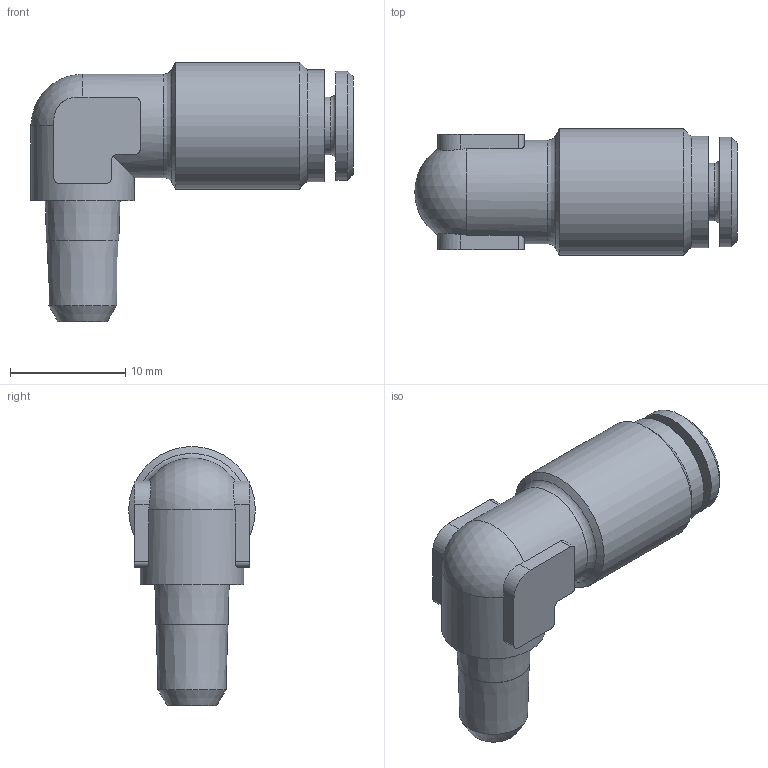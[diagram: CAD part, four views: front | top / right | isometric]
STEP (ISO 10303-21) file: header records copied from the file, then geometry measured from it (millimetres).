
FILE_DESCRIPTION(/* description */ (''),/* implementation_level */ '2;1');
FILE_NAME(/* name */ 'H190406_HDS19_4_M6X1K_04.05.17',/* time_stamp */ '2017-05-04T11:19:22+02:00',/* author */ (''),/* organization */ (''),/* preprocessor_version */ 'ST-DEVELOPER v16.5',/* originating_system */ 'HiCAD 2016 2102.1 Build 498',/* authorisation */ '');
FILE_SCHEMA (('AUTOMOTIVE_DESIGN { 1 0 10303 214 1 1 1 1 }'));
Length unit declared in the file: millimetre
Products named in the file (3): Root; RH140406; ONLINE_DR4_HDS_26.11.15
Assembly tree (2 placements, depth 2):
  Root
    RH140406
    ONLINE_DR4_HDS_26.11.15
Bounding box: 28 x 11 x 22.5 mm (x, y, z)
Volume: 2024.1 mm3; surface area: 2309.4 mm2
Topology: 2 solids, 2 shells, 69 faces, 166 edges, 106 vertices
Faces by surface type: cylinder 25, plane 24, cone 15, torus 4, sphere 1
Full cylindrical faces by diameter (mm): 2.5 x1, 3 x1, 4.2 x2, 5 x1, 7.3 x1, 8 x1, 8.3 x1, 9 x2, 9.5 x1, 9.7 x1, 11 x1
Entity records: 3535 total; most frequent: CARTESIAN_POINT 757, DIRECTION 320, PRESENTATION_STYLE_ASSIGNMENT 256, COLOUR_RGB 256, DRAUGHTING_PRE_DEFINED_CURVE_FONT 254, CURVE_STYLE 254, OVER_RIDING_STYLED_ITEM 254, ORIENTED_EDGE 254
